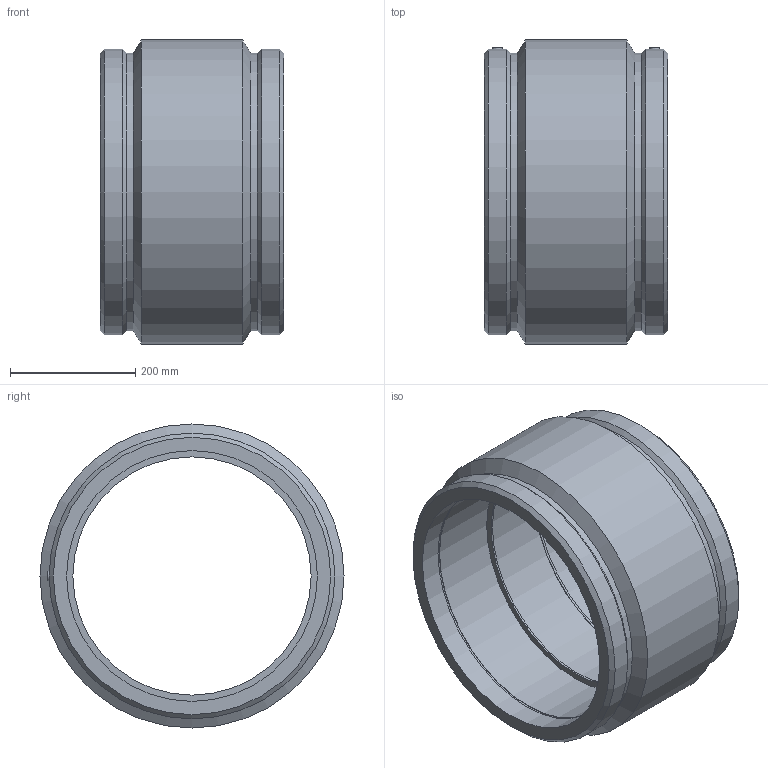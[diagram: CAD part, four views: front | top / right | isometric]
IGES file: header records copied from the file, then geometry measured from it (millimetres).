
Global section: file name: 490103400.ipt; native system: Autodesk Inventor 2015; preprocessor: unknown; author: KIM; date: 20171106.093538; units: millimetre
Bounding box: 293 x 485 x 485 mm (x, y, z)
Volume: 14324698 mm3; surface area: 935963.4 mm2
Topology: 1 solids, 1 shells, 36 faces, 80 edges, 54 vertices
Faces by surface type: plane 12, revolution 9, cone 8, cylinder 7
Full cylindrical faces by diameter (mm): 4 x2, 442.223 x2, 455.9 x2, 485 x1
